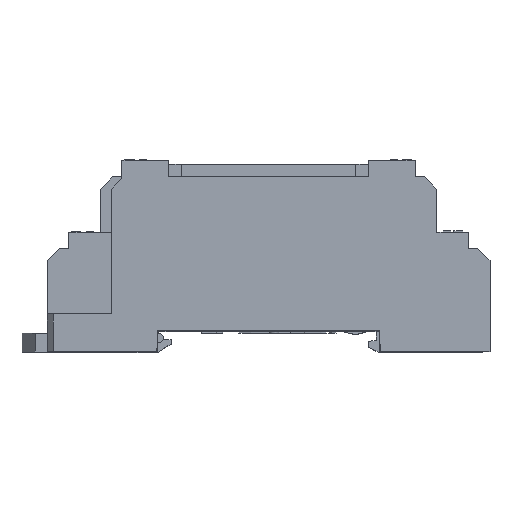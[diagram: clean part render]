
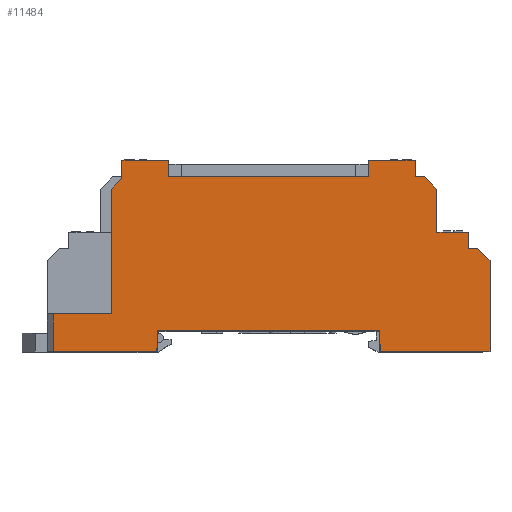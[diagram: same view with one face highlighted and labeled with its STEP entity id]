
A CAD part, top view. The second image highlights one B-rep face of the part: STEP entity #11484.
In plain terms, the highlighted planar face has unit normal (0, 0, 1).
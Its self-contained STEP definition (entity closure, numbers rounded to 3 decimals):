
#11484=ADVANCED_FACE('',(#15424),#13515,.T.);
#13515=PLANE('',#53025);
#15424=FACE_OUTER_BOUND('',#17593,.T.);
#17593=EDGE_LOOP('',(#24657,#24658,#24659,#24660,#24661,#24662,#24663,#24664,
#24665,#24666,#24667,#24668,#24669,#24670,#24671,#24672,#24673,#24674,#24675,
#24676,#24677,#24678,#24679,#24680));
#24657=ORIENTED_EDGE('',*,*,#38252,.T.);
#24658=ORIENTED_EDGE('',*,*,#38253,.T.);
#24659=ORIENTED_EDGE('',*,*,#38254,.F.);
#24660=ORIENTED_EDGE('',*,*,#38255,.T.);
#24661=ORIENTED_EDGE('',*,*,#38256,.T.);
#24662=ORIENTED_EDGE('',*,*,#38257,.T.);
#24663=ORIENTED_EDGE('',*,*,#38258,.F.);
#24664=ORIENTED_EDGE('',*,*,#38259,.F.);
#24665=ORIENTED_EDGE('',*,*,#38260,.F.);
#24666=ORIENTED_EDGE('',*,*,#38261,.T.);
#24667=ORIENTED_EDGE('',*,*,#38262,.T.);
#24668=ORIENTED_EDGE('',*,*,#37982,.F.);
#24669=ORIENTED_EDGE('',*,*,#38263,.F.);
#24670=ORIENTED_EDGE('',*,*,#38264,.T.);
#24671=ORIENTED_EDGE('',*,*,#38215,.T.);
#24672=ORIENTED_EDGE('',*,*,#38265,.T.);
#24673=ORIENTED_EDGE('',*,*,#38266,.T.);
#24674=ORIENTED_EDGE('',*,*,#38267,.T.);
#24675=ORIENTED_EDGE('',*,*,#38194,.T.);
#24676=ORIENTED_EDGE('',*,*,#38268,.F.);
#24677=ORIENTED_EDGE('',*,*,#38269,.T.);
#24678=ORIENTED_EDGE('',*,*,#38270,.F.);
#24679=ORIENTED_EDGE('',*,*,#38271,.F.);
#24680=ORIENTED_EDGE('',*,*,#38151,.F.);
#33043=VERTEX_POINT('',#72661);
#33044=VERTEX_POINT('',#72663);
#33205=VERTEX_POINT('',#73088);
#33206=VERTEX_POINT('',#73090);
#33245=VERTEX_POINT('',#73175);
#33246=VERTEX_POINT('',#73177);
#33265=VERTEX_POINT('',#73218);
#33266=VERTEX_POINT('',#73219);
#33300=VERTEX_POINT('',#73296);
#33301=VERTEX_POINT('',#73298);
#33302=VERTEX_POINT('',#73300);
#33303=VERTEX_POINT('',#73302);
#33304=VERTEX_POINT('',#73304);
#33305=VERTEX_POINT('',#73306);
#33306=VERTEX_POINT('',#73308);
#33307=VERTEX_POINT('',#73310);
#33308=VERTEX_POINT('',#73312);
#33309=VERTEX_POINT('',#73314);
#33310=VERTEX_POINT('',#73317);
#33311=VERTEX_POINT('',#73320);
#33312=VERTEX_POINT('',#73322);
#33313=VERTEX_POINT('',#73325);
#33314=VERTEX_POINT('',#73327);
#33315=VERTEX_POINT('',#73329);
#37982=EDGE_CURVE('',#33043,#33044,#43672,.T.);
#38151=EDGE_CURVE('',#33205,#33206,#43828,.T.);
#38194=EDGE_CURVE('',#33246,#33245,#43868,.T.);
#38215=EDGE_CURVE('',#33265,#33266,#43884,.T.);
#38252=EDGE_CURVE('',#33205,#33300,#43919,.T.);
#38253=EDGE_CURVE('',#33300,#33301,#43920,.T.);
#38254=EDGE_CURVE('',#33302,#33301,#43921,.T.);
#38255=EDGE_CURVE('',#33302,#33303,#43922,.T.);
#38256=EDGE_CURVE('',#33303,#33304,#43923,.T.);
#38257=EDGE_CURVE('',#33304,#33305,#43924,.T.);
#38258=EDGE_CURVE('',#33306,#33305,#43925,.T.);
#38259=EDGE_CURVE('',#33307,#33306,#43926,.T.);
#38260=EDGE_CURVE('',#33308,#33307,#43927,.T.);
#38261=EDGE_CURVE('',#33308,#33309,#43928,.T.);
#38262=EDGE_CURVE('',#33309,#33044,#43929,.T.);
#38263=EDGE_CURVE('',#33310,#33043,#43930,.T.);
#38264=EDGE_CURVE('',#33310,#33265,#43931,.T.);
#38265=EDGE_CURVE('',#33266,#33311,#43932,.T.);
#38266=EDGE_CURVE('',#33311,#33312,#43933,.T.);
#38267=EDGE_CURVE('',#33312,#33246,#43934,.T.);
#38268=EDGE_CURVE('',#33313,#33245,#43935,.T.);
#38269=EDGE_CURVE('',#33313,#33314,#43936,.T.);
#38270=EDGE_CURVE('',#33315,#33314,#43937,.T.);
#38271=EDGE_CURVE('',#33206,#33315,#43938,.T.);
#43672=LINE('',#72662,#48799);
#43828=LINE('',#73089,#48955);
#43868=LINE('',#73176,#48995);
#43884=LINE('',#73217,#49011);
#43919=LINE('',#73295,#49046);
#43920=LINE('',#73297,#49047);
#43921=LINE('',#73299,#49048);
#43922=LINE('',#73301,#49049);
#43923=LINE('',#73303,#49050);
#43924=LINE('',#73305,#49051);
#43925=LINE('',#73307,#49052);
#43926=LINE('',#73309,#49053);
#43927=LINE('',#73311,#49054);
#43928=LINE('',#73313,#49055);
#43929=LINE('',#73315,#49056);
#43930=LINE('',#73316,#49057);
#43931=LINE('',#73318,#49058);
#43932=LINE('',#73319,#49059);
#43933=LINE('',#73321,#49060);
#43934=LINE('',#73323,#49061);
#43935=LINE('',#73324,#49062);
#43936=LINE('',#73326,#49063);
#43937=LINE('',#73328,#49064);
#43938=LINE('',#73330,#49065);
#48799=VECTOR('',#59341,1.);
#48955=VECTOR('',#59519,1.);
#48995=VECTOR('',#59573,1.);
#49011=VECTOR('',#59601,1.);
#49046=VECTOR('',#59652,1.);
#49047=VECTOR('',#59653,1.);
#49048=VECTOR('',#59654,1.);
#49049=VECTOR('',#59655,1.);
#49050=VECTOR('',#59656,1.);
#49051=VECTOR('',#59657,1.);
#49052=VECTOR('',#59658,1.);
#49053=VECTOR('',#59659,1.);
#49054=VECTOR('',#59660,1.);
#49055=VECTOR('',#59661,1.);
#49056=VECTOR('',#59662,1.);
#49057=VECTOR('',#59663,1.);
#49058=VECTOR('',#59664,1.);
#49059=VECTOR('',#59665,1.);
#49060=VECTOR('',#59666,1.);
#49061=VECTOR('',#59667,1.);
#49062=VECTOR('',#59668,1.);
#49063=VECTOR('',#59669,1.);
#49064=VECTOR('',#59670,1.);
#49065=VECTOR('',#59671,1.);
#53025=AXIS2_PLACEMENT_3D('',#73331,#59672,#59673);
#59341=DIRECTION('',(0.,1.,0.));
#59519=DIRECTION('',(1.,0.,0.));
#59573=DIRECTION('',(1.,0.,0.));
#59601=DIRECTION('',(1.,0.,0.));
#59652=DIRECTION('',(0.,1.,0.));
#59653=DIRECTION('',(-0.707,0.707,0.));
#59654=DIRECTION('',(1.,0.,0.));
#59655=DIRECTION('',(0.,1.,0.));
#59656=DIRECTION('',(-1.,0.,0.));
#59657=DIRECTION('',(0.,-1.,0.));
#59658=DIRECTION('',(1.,0.,0.));
#59659=DIRECTION('',(0.,-1.,0.));
#59660=DIRECTION('',(1.,0.,0.));
#59661=DIRECTION('',(0.,-1.,0.));
#59662=DIRECTION('',(-0.707,-0.707,0.));
#59663=DIRECTION('',(1.,0.,0.));
#59664=DIRECTION('',(0.,-1.,0.));
#59665=DIRECTION('',(0.029,1.,0.));
#59666=DIRECTION('',(1.,0.,0.));
#59667=DIRECTION('',(0.029,-1.,0.));
#59668=DIRECTION('',(0.,-1.,0.));
#59669=DIRECTION('',(-0.707,0.707,0.));
#59670=DIRECTION('',(1.,0.,0.));
#59671=DIRECTION('',(0.,-1.,0.));
#59672=DIRECTION('',(0.,0.,1.));
#59673=DIRECTION('',(-1.,0.,0.));
#72661=CARTESIAN_POINT('',(-87.983,10.723,11.));
#72662=CARTESIAN_POINT('',(-87.983,0.983,11.));
#72663=CARTESIAN_POINT('',(-87.983,30.723,11.));
#73088=CARTESIAN_POINT('',(-35.783,23.823,11.));
#73089=CARTESIAN_POINT('',(-30.733,23.823,11.));
#73090=CARTESIAN_POINT('',(-30.783,23.823,11.));
#73175=CARTESIAN_POINT('',(-27.283,4.723,11.));
#73176=CARTESIAN_POINT('',(-98.283,4.723,11.));
#73177=CARTESIAN_POINT('',(-44.883,4.723,11.));
#73217=CARTESIAN_POINT('',(-98.283,4.723,11.));
#73218=CARTESIAN_POINT('',(-97.283,4.723,11.));
#73219=CARTESIAN_POINT('',(-80.683,4.723,11.));
#73295=CARTESIAN_POINT('',(-35.783,23.223,11.));
#73296=CARTESIAN_POINT('',(-35.783,30.723,11.));
#73297=CARTESIAN_POINT('',(-37.783,32.723,11.));
#73298=CARTESIAN_POINT('',(-37.783,32.723,11.));
#73299=CARTESIAN_POINT('',(-39.283,32.723,11.));
#73300=CARTESIAN_POINT('',(-39.283,32.723,11.));
#73301=CARTESIAN_POINT('',(-39.283,0.983,11.));
#73302=CARTESIAN_POINT('',(-39.283,35.323,11.));
#73303=CARTESIAN_POINT('',(-79.733,35.323,11.));
#73304=CARTESIAN_POINT('',(-46.783,35.323,11.));
#73305=CARTESIAN_POINT('',(-46.783,0.983,11.));
#73306=CARTESIAN_POINT('',(-46.783,32.723,11.));
#73307=CARTESIAN_POINT('',(-45.783,32.723,11.));
#73308=CARTESIAN_POINT('',(-78.783,32.723,11.));
#73309=CARTESIAN_POINT('',(-78.783,35.323,11.));
#73310=CARTESIAN_POINT('',(-78.783,35.323,11.));
#73311=CARTESIAN_POINT('',(-43.783,35.323,11.));
#73312=CARTESIAN_POINT('',(-86.283,35.323,11.));
#73313=CARTESIAN_POINT('',(-86.283,0.983,11.));
#73314=CARTESIAN_POINT('',(-86.283,32.423,11.));
#73315=CARTESIAN_POINT('',(-85.983,32.723,11.));
#73316=CARTESIAN_POINT('',(-98.283,10.723,11.));
#73317=CARTESIAN_POINT('',(-97.283,10.723,11.));
#73318=CARTESIAN_POINT('',(-97.283,0.983,11.));
#73319=CARTESIAN_POINT('',(-80.683,4.723,11.));
#73320=CARTESIAN_POINT('',(-80.583,8.123,11.));
#73321=CARTESIAN_POINT('',(-80.483,8.123,11.));
#73322=CARTESIAN_POINT('',(-44.983,8.123,11.));
#73323=CARTESIAN_POINT('',(-44.983,8.123,11.));
#73324=CARTESIAN_POINT('',(-27.283,19.223,11.));
#73325=CARTESIAN_POINT('',(-27.283,19.223,11.));
#73326=CARTESIAN_POINT('',(-27.283,19.223,11.));
#73327=CARTESIAN_POINT('',(-29.283,21.223,11.));
#73328=CARTESIAN_POINT('',(-29.283,21.223,11.));
#73329=CARTESIAN_POINT('',(-30.783,21.223,11.));
#73330=CARTESIAN_POINT('',(-30.783,0.983,11.));
#73331=CARTESIAN_POINT('',(-43.783,0.983,11.));
